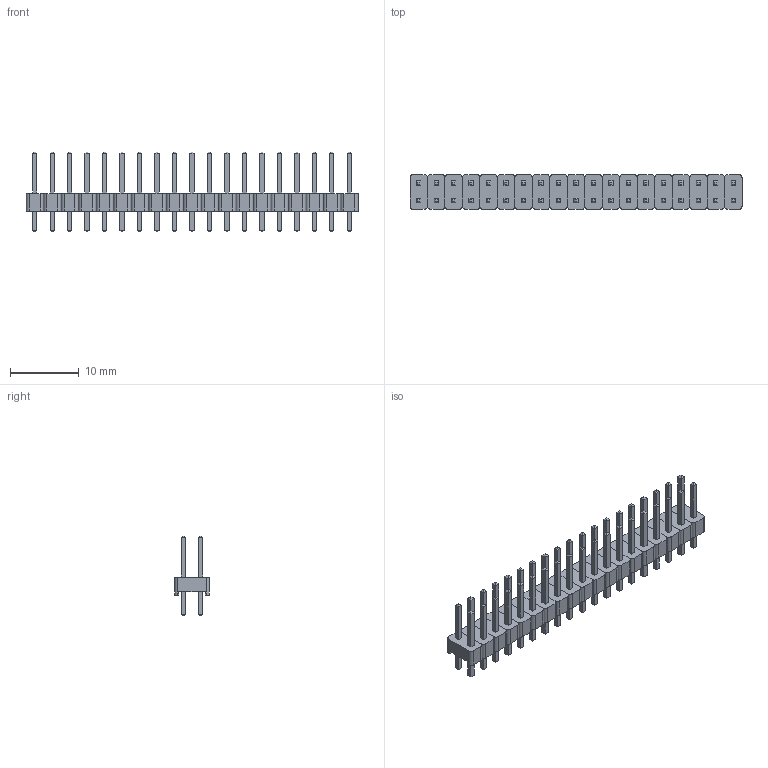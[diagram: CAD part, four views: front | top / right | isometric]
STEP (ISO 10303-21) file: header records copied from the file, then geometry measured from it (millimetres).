
FILE_DESCRIPTION(('FreeCAD Model'),'2;1');
FILE_NAME('Open CASCADE Shape Model','2022-04-06T16:01:23',( 'Engenharia Metaltex'),('Metaltex'), 'Open CASCADE STEP processor 7.5','FreeCAD','Unknown');
FILE_SCHEMA(('AUTOMOTIVE_DESIGN { 1 0 10303 214 1 1 1 1 }'));
Length unit declared in the file: millimetre
Products named in the file (77): BPDC; 19; Base018; Pino037; Pino038; 1; Base; Pino1; Pino2; 2; Base001; Pino003; Pino004; 3; Base002; Pino006; Pino005; 4; Base003; Pino008; Pino007; 5; Base004; Pino009; Pino010; 6; Base005; Pino012; Pino011; 7; Base006; Pino013; Pino014; 8; Base007; Pino015; Pino016; 9; Base008; Pino017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
Assembly tree (76 placements, depth 3):
  BPDC
    19
      Base018
      Pino037
      Pino038
    1
      Base
      Pino1
      Pino2
    2
      Base001
      Pino003
      Pino004
    3
      Base002
      Pino006
      Pino005
    4
      Base003
      Pino008
      Pino007
    5
      Base004
      Pino009
      Pino010
    6
      Base005
      Pino012
      Pino011
    7
      Base006
      Pino013
      Pino014
    8
      Base007
      Pino015
      Pino016
    9
      Base008
      Pino017
      Pino018
    10
      Base009
      Pino019
      Pino020
    11
      Base010
      Pino021
      Pino022
    12
      Base011
      Pino023
      Pino024
    13
      Base012
      Pino025
      Pino026
    14
      Base013
      Pino027
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Bounding box: 48.26 x 5.08 x 11.54 mm (x, y, z)
Volume: 663.5 mm3; surface area: 2444 mm2
Topology: 57 solids, 57 shells, 950 faces, 2204 edges, 1368 vertices
Faces by surface type: plane 874, cylinder 76
Entity records: 57019 total; most frequent: CARTESIAN_POINT 9463, DIRECTION 8742, LINE 6308, VECTOR 6308, ORIENTED_EDGE 4408, PCURVE 4408, DEFINITIONAL_REPRESENTATION 4408, EDGE_CURVE 2204
